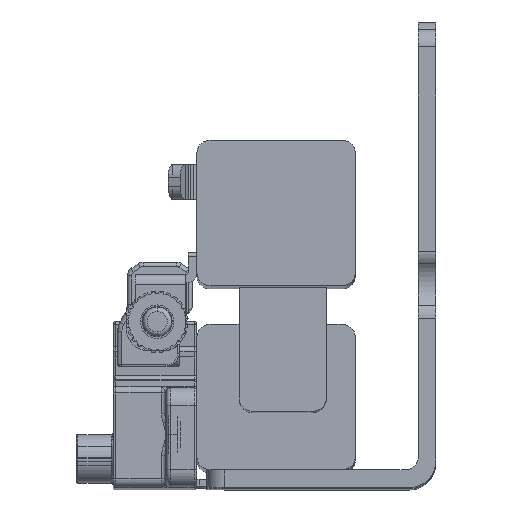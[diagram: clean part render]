
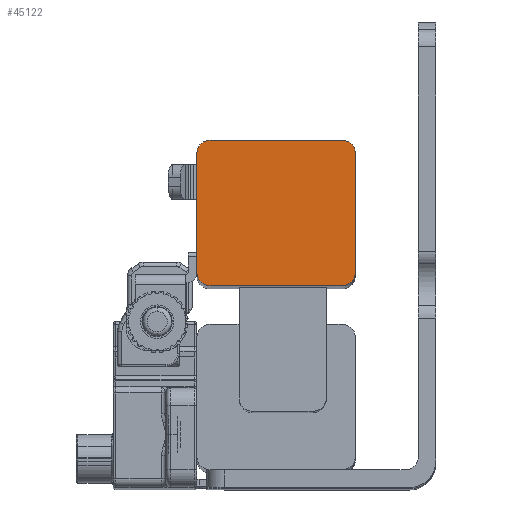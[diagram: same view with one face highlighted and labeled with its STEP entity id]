
A CAD part, top view. The second image highlights one B-rep face of the part: STEP entity #45122.
In plain terms, the highlighted planar face has unit normal (0, 0, 1).
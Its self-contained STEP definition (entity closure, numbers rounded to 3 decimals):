
#1061 = DIRECTION ( 'NONE',  ( 0., 0., 1. ) ) ;
#1594 = CARTESIAN_POINT ( 'NONE',  ( -7.5, 8.25, 213.1 ) ) ;
#1925 = ORIENTED_EDGE ( 'NONE', *, *, #15876, .T. ) ;
#2175 = VERTEX_POINT ( 'NONE', #60684 ) ;
#2869 = CIRCLE ( 'NONE', #10638, 1.5 ) ;
#6115 = VECTOR ( 'NONE', #26450, 1000. ) ;
#6652 = CIRCLE ( 'NONE', #40992, 1.5 ) ;
#6746 = LINE ( 'NONE', #39719, #8613 ) ;
#7811 = DIRECTION ( 'NONE',  ( 1., 0., 0. ) ) ;
#8198 = FACE_OUTER_BOUND ( 'NONE', #41340, .T. ) ;
#8203 = AXIS2_PLACEMENT_3D ( 'NONE', #29400, #24891, #19698 ) ;
#8613 = VECTOR ( 'NONE', #17881, 1000. ) ;
#10638 = AXIS2_PLACEMENT_3D ( 'NONE', #48636, #1061, #59416 ) ;
#11590 = EDGE_CURVE ( 'NONE', #14112, #2175, #29532, .T. ) ;
#12813 = DIRECTION ( 'NONE',  ( 1., 0., 0. ) ) ;
#13748 = CARTESIAN_POINT ( 'NONE',  ( -7.51, 6.76, 213.1 ) ) ;
#14112 = VERTEX_POINT ( 'NONE', #64657 ) ;
#15876 = EDGE_CURVE ( 'NONE', #24378, #14112, #18634, .T. ) ;
#16210 = EDGE_CURVE ( 'NONE', #46663, #50415, #2869, .T. ) ;
#16540 = ORIENTED_EDGE ( 'NONE', *, *, #42760, .T. ) ;
#17881 = DIRECTION ( 'NONE',  ( -1., 0., 0. ) ) ;
#18514 = EDGE_CURVE ( 'NONE', #50415, #64207, #6746, .T. ) ;
#18634 = LINE ( 'NONE', #29350, #58617 ) ;
#19698 = DIRECTION ( 'NONE',  ( 1., 0., 0. ) ) ;
#22067 = ORIENTED_EDGE ( 'NONE', *, *, #11590, .T. ) ;
#23338 = VERTEX_POINT ( 'NONE', #60764 ) ;
#24378 = VERTEX_POINT ( 'NONE', #54653 ) ;
#24891 = DIRECTION ( 'NONE',  ( 0., 0., 1. ) ) ;
#26450 = DIRECTION ( 'NONE',  ( 0., 1., 0. ) ) ;
#27895 = CARTESIAN_POINT ( 'NONE',  ( -9., -6.75, 213.1 ) ) ;
#28635 = DIRECTION ( 'NONE',  ( 0., 0., 1. ) ) ;
#29346 = CARTESIAN_POINT ( 'NONE',  ( 7.5, 8.25, 213.1 ) ) ;
#29350 = CARTESIAN_POINT ( 'NONE',  ( -7.5, -8.25, 213.1 ) ) ;
#29360 = DIRECTION ( 'NONE',  ( 1., 0., 0. ) ) ;
#29400 = CARTESIAN_POINT ( 'NONE',  ( -7.5, 6.75, 213.1 ) ) ;
#29532 = CIRCLE ( 'NONE', #68358, 1.5 ) ;
#30033 = EDGE_CURVE ( 'NONE', #64207, #23338, #43678, .T. ) ;
#32973 = ORIENTED_EDGE ( 'NONE', *, *, #63323, .T. ) ;
#34696 = ORIENTED_EDGE ( 'NONE', *, *, #18514, .T. ) ;
#36504 = CARTESIAN_POINT ( 'NONE',  ( 9., 6.75, 213.1 ) ) ;
#37613 = CARTESIAN_POINT ( 'NONE',  ( -9., 8.25, 213.1 ) ) ;
#37954 = LINE ( 'NONE', #37613, #54688 ) ;
#38144 = DIRECTION ( 'NONE',  ( 0., 0., 1. ) ) ;
#38720 = VERTEX_POINT ( 'NONE', #27895 ) ;
#39719 = CARTESIAN_POINT ( 'NONE',  ( -9., 8.25, 213.1 ) ) ;
#40992 = AXIS2_PLACEMENT_3D ( 'NONE', #64910, #38144, #12813 ) ;
#41030 = EDGE_CURVE ( 'NONE', #38720, #24378, #6652, .T. ) ;
#41340 = EDGE_LOOP ( 'NONE', ( #32973, #67832, #1925, #22067, #16540, #62805, #34696, #48375 ) ) ;
#42760 = EDGE_CURVE ( 'NONE', #2175, #46663, #58394, .T. ) ;
#43174 = DIRECTION ( 'NONE',  ( 0., -1., 0. ) ) ;
#43678 = CIRCLE ( 'NONE', #8203, 1.5 ) ;
#45122 = ADVANCED_FACE ( 'NONE', ( #8198 ), #45330, .T. ) ;
#45330 = PLANE ( 'NONE',  #48328 ) ;
#46663 = VERTEX_POINT ( 'NONE', #60127 ) ;
#48328 = AXIS2_PLACEMENT_3D ( 'NONE', #13748, #50183, #29360 ) ;
#48375 = ORIENTED_EDGE ( 'NONE', *, *, #30033, .T. ) ;
#48636 = CARTESIAN_POINT ( 'NONE',  ( 7.5, 6.75, 213.1 ) ) ;
#50183 = DIRECTION ( 'NONE',  ( 0., 0., 1. ) ) ;
#50415 = VERTEX_POINT ( 'NONE', #29346 ) ;
#50532 = DIRECTION ( 'NONE',  ( 1., 0., 0. ) ) ;
#54653 = CARTESIAN_POINT ( 'NONE',  ( -7.5, -8.25, 213.1 ) ) ;
#54688 = VECTOR ( 'NONE', #43174, 1000. ) ;
#55369 = CARTESIAN_POINT ( 'NONE',  ( 7.5, -6.75, 213.1 ) ) ;
#58394 = LINE ( 'NONE', #36504, #6115 ) ;
#58617 = VECTOR ( 'NONE', #50532, 1000. ) ;
#59416 = DIRECTION ( 'NONE',  ( -1., 0., 0. ) ) ;
#60127 = CARTESIAN_POINT ( 'NONE',  ( 9., 6.75, 213.1 ) ) ;
#60684 = CARTESIAN_POINT ( 'NONE',  ( 9., -6.75, 213.1 ) ) ;
#60764 = CARTESIAN_POINT ( 'NONE',  ( -9., 6.75, 213.1 ) ) ;
#62805 = ORIENTED_EDGE ( 'NONE', *, *, #16210, .T. ) ;
#63323 = EDGE_CURVE ( 'NONE', #23338, #38720, #37954, .T. ) ;
#64207 = VERTEX_POINT ( 'NONE', #1594 ) ;
#64657 = CARTESIAN_POINT ( 'NONE',  ( 7.5, -8.25, 213.1 ) ) ;
#64910 = CARTESIAN_POINT ( 'NONE',  ( -7.5, -6.75, 213.1 ) ) ;
#67832 = ORIENTED_EDGE ( 'NONE', *, *, #41030, .T. ) ;
#68358 = AXIS2_PLACEMENT_3D ( 'NONE', #55369, #28635, #7811 ) ;
